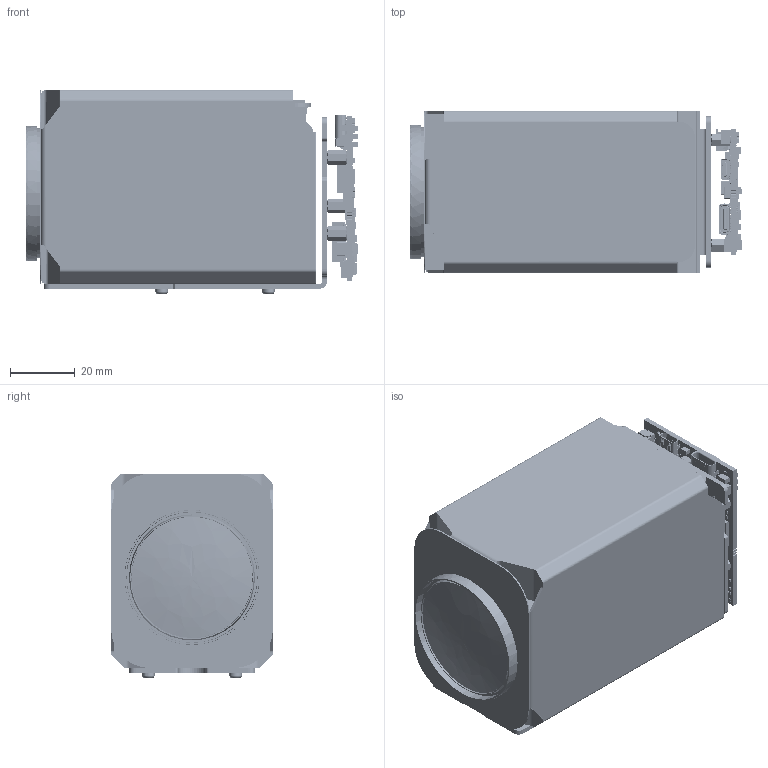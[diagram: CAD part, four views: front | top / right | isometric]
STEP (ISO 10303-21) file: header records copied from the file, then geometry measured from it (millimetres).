
FILE_DESCRIPTION( ( 'Unknown' ), '1' );
FILE_NAME( 'Q:/2003/Product3DCADModels/STEP-test/mm-ap23c06-0155-0101.stp', 'Unknown', ( 'Unknown' ), ( 'Unknown' ), 'PSStep 17.0.49', 'Unknown', ' ' );
FILE_SCHEMA( ( 'AUTOMOTIVE_DESIGN { 1 0 10303 214 1 1 1 1 }' ) );
Length unit declared in the file: millimetre
Products named in the file (411): Body-3; Open_CASCADE_STEP_translator_6.8_9.2.1; Pin_Shape-3; Open_CASCADE_STEP_translator_6.8_19.4.1; Body-4; Open_CASCADE_STEP_translator_6.8_19.2.1; Body-1; Open_CASCADE_STEP_translator_6.8_14.2.1; Pin_Shape-2; Open_CASCADE_STEP_translator_6.8_9.4.1; Body; Pin_Shape; Open_CASCADE_STEP_translator_6.8_14.4.1; Terminal; Open_CASCADE_STEP_translator_6.8_25.1.1; Open_CASCADE_STEP_translator_6.8_25.1.2; Mid_Body; Open_CASCADE_STEP_translator_6.8_25.2.1; Pin_Shape-1; Body-2; Open_CASCADE_STEP_translator_6.8_2.2.1; 7100757104; 7100752944; ball; Open_CASCADE_STEP_translator_6.8_2.1; CHP-081TA; _CHP-08-J-Lower-body; _CHP-knobLower; 7100759264; Thermal_Shape; Open_CASCADE_STEP_translator_6.8_14.1; 7187821680; Extruded; 6920195104; 8685633920; 8636600128; 7187817440; 7187811120; 7100753264; Open_CASCADE_STEP_translator_6.8_19.1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
Assembly tree (1144 placements, depth 6):
  Assem1
    G-028-825A  x3
    G-806-048H  x4
    EV9520L
    bracket-assy
      G-028-825A  x3
      bracket-0378-02
      G-090-651C  x3
    mm-ap23c06-0096-0101
      U1
      L3-985
      Board
        Open CASCADE STEP translator 6.8 4.1.1
          Open CASCADE STEP translator 6.8 4.1.1.1
      C31
        8636596368
          Extruded
      C15
        8636596368
          Extruded
      J6
        CUI_INC_UJ31-CH-G1-SMT-TR
        CUI_INC_UJ31-CH-G1-SMT-TR
      C137
        7187821680
          Extruded
        7187821360  x2
          Extruded
      C133
        8685643520
          Extruded
        8685633920  x2
          Extruded
      C134
        7187821680
          Extruded
        7187821360  x2
          Extruded
      C135
        7187821680
          Extruded
        7187821360  x2
          Extruded
      C136
        7187821680
          Extruded
        7187821360  x2
          Extruded
      R82
        CR1005-0402
        CR1005-0402
        CR1005-0402
        CR1005-0402
      R81
        CR1005-0402
        CR1005-0402
        CR1005-0402
        CR1005-0402
      R39
        8636596368
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Bounding box: 102.66 x 50 x 63.14 mm (x, y, z)
Volume: 264763.6 mm3; surface area: 50670.9 mm2
Topology: 827 solids, 832 shells, 13815 faces, 34739 edges, 22563 vertices
Faces by surface type: plane 11580, cylinder 1733, cone 171, torus 144, sphere 141, bspline 41, revolution 5
Full cylindrical faces by diameter (mm): 0.023 x14, 0.15 x7, 0.164 x7, 0.224 x1, 0.256 x1, 0.4 x12, 0.432 x2, 0.5 x1, 0.512 x1, 0.6 x2, 0.7 x2, 0.75 x1, 1 x1, 1.137 x1, 1.2 x2, 1.567 x3, 1.729 x8, 2 x10, 2.2 x34, 3.88 x4, 6 x1, 6.2 x2, 40.2 x1, 41.7 x1, 44 x1
Entity records: 258004 total; most frequent: CARTESIAN_POINT 38779, DIRECTION 32520, ORIENTED_EDGE 31915, EDGE_CURVE 15960, LINE 12751, VECTOR 12751, VERTEX_POINT 10379, AXIS2_PLACEMENT_3D 9882
